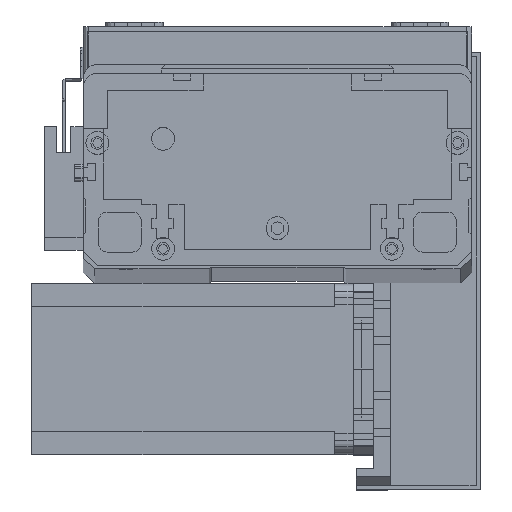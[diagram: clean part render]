
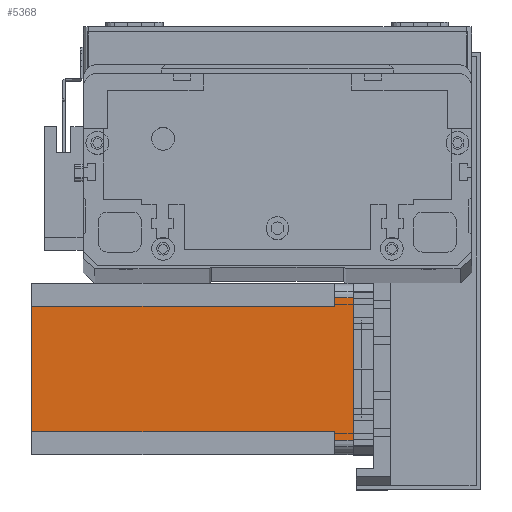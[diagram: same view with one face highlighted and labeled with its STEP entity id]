
A CAD part, top view. The second image highlights one B-rep face of the part: STEP entity #5368.
In plain terms, the highlighted planar face has unit normal (0, 0, 1) as drawn and (0, -1, 0) by its records, which use the part's own axes.
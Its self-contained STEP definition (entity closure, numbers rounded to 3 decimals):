
#98 = CARTESIAN_POINT ( 'NONE',  ( 52., 0., -112.5 ) ) ;
#587 = AXIS2_PLACEMENT_3D ( 'NONE', #23833, #9571, #26238 ) ;
#623 = EDGE_CURVE ( 'NONE', #3765, #3757, #5610, .T. ) ;
#945 = CARTESIAN_POINT ( 'NONE',  ( 8., 0., -6.5 ) ) ;
#1628 = VECTOR ( 'NONE', #22469, 1000. ) ;
#1962 = CARTESIAN_POINT ( 'NONE',  ( 55., 0., -112.5 ) ) ;
#2618 = DIRECTION ( 'NONE',  ( 0., 0., 1. ) ) ;
#2737 = DIRECTION ( 'NONE',  ( 0., 0., -1. ) ) ;
#2815 = LINE ( 'NONE', #21883, #27520 ) ;
#3527 = VERTEX_POINT ( 'NONE', #9609 ) ;
#3757 = VERTEX_POINT ( 'NONE', #13588 ) ;
#3765 = VERTEX_POINT ( 'NONE', #27870 ) ;
#3807 = ORIENTED_EDGE ( 'NONE', *, *, #16379, .T. ) ;
#3880 = EDGE_CURVE ( 'NONE', #3527, #9450, #8246, .T. ) ;
#5368 = ADVANCED_FACE ( 'NONE', ( #8936 ), #30973, .T. ) ;
#5610 = LINE ( 'NONE', #1962, #30341 ) ;
#5757 = DIRECTION ( 'NONE',  ( 1., 0., 0. ) ) ;
#6426 = ORIENTED_EDGE ( 'NONE', *, *, #10952, .F. ) ;
#6793 = DIRECTION ( 'NONE',  ( 0., 0., 1. ) ) ;
#7679 = VERTEX_POINT ( 'NONE', #30833 ) ;
#8009 = LINE ( 'NONE', #945, #1628 ) ;
#8246 = LINE ( 'NONE', #16995, #20977 ) ;
#8511 = ORIENTED_EDGE ( 'NONE', *, *, #19269, .T. ) ;
#8936 = FACE_OUTER_BOUND ( 'NONE', #25957, .T. ) ;
#9450 = VERTEX_POINT ( 'NONE', #17417 ) ;
#9491 = VECTOR ( 'NONE', #24729, 1000. ) ;
#9571 = DIRECTION ( 'NONE',  ( 0., -1., 0. ) ) ;
#9609 = CARTESIAN_POINT ( 'NONE',  ( 8., 0., -112.5 ) ) ;
#10250 = VECTOR ( 'NONE', #25065, 1000. ) ;
#10378 = VECTOR ( 'NONE', #5757, 1000. ) ;
#10457 = CARTESIAN_POINT ( 'NONE',  ( 0., 0., -112.5 ) ) ;
#10952 = EDGE_CURVE ( 'NONE', #27873, #28530, #2815, .T. ) ;
#11218 = CARTESIAN_POINT ( 'NONE',  ( 5., 0., -6.5 ) ) ;
#11267 = VERTEX_POINT ( 'NONE', #11218 ) ;
#12197 = CARTESIAN_POINT ( 'NONE',  ( 52., 0., -6.5 ) ) ;
#12461 = DIRECTION ( 'NONE',  ( 1., 0., 0. ) ) ;
#13215 = CARTESIAN_POINT ( 'NONE',  ( 5., 0., -112.5 ) ) ;
#13588 = CARTESIAN_POINT ( 'NONE',  ( 55., 0., 0. ) ) ;
#16379 = EDGE_CURVE ( 'NONE', #3527, #28530, #29428, .T. ) ;
#16995 = CARTESIAN_POINT ( 'NONE',  ( 8., 0., -112.5 ) ) ;
#17417 = CARTESIAN_POINT ( 'NONE',  ( 8., 0., -6.5 ) ) ;
#17769 = ORIENTED_EDGE ( 'NONE', *, *, #20560, .F. ) ;
#18045 = ORIENTED_EDGE ( 'NONE', *, *, #18710, .T. ) ;
#18710 = EDGE_CURVE ( 'NONE', #7679, #11267, #22195, .T. ) ;
#19269 = EDGE_CURVE ( 'NONE', #27873, #3765, #27791, .T. ) ;
#20560 = EDGE_CURVE ( 'NONE', #7679, #3757, #24533, .T. ) ;
#20977 = VECTOR ( 'NONE', #2618, 1000. ) ;
#21883 = CARTESIAN_POINT ( 'NONE',  ( 52., 0., -112.5 ) ) ;
#22195 = LINE ( 'NONE', #13215, #10250 ) ;
#22469 = DIRECTION ( 'NONE',  ( -1., 0., 0. ) ) ;
#23833 = CARTESIAN_POINT ( 'NONE',  ( 0., 0., -112.5 ) ) ;
#24533 = LINE ( 'NONE', #29139, #29373 ) ;
#24729 = DIRECTION ( 'NONE',  ( 1., 0., 0. ) ) ;
#25065 = DIRECTION ( 'NONE',  ( 0., 0., -1. ) ) ;
#25957 = EDGE_LOOP ( 'NONE', ( #8511, #28181, #17769, #18045, #27832, #29293, #3807, #6426 ) ) ;
#26238 = DIRECTION ( 'NONE',  ( 0., 0., -1. ) ) ;
#26339 = EDGE_CURVE ( 'NONE', #9450, #11267, #8009, .T. ) ;
#27520 = VECTOR ( 'NONE', #2737, 1000. ) ;
#27791 = LINE ( 'NONE', #29527, #9491 ) ;
#27832 = ORIENTED_EDGE ( 'NONE', *, *, #26339, .F. ) ;
#27870 = CARTESIAN_POINT ( 'NONE',  ( 55., 0., -6.5 ) ) ;
#27873 = VERTEX_POINT ( 'NONE', #12197 ) ;
#28181 = ORIENTED_EDGE ( 'NONE', *, *, #623, .T. ) ;
#28530 = VERTEX_POINT ( 'NONE', #98 ) ;
#29139 = CARTESIAN_POINT ( 'NONE',  ( 0., 0., 0. ) ) ;
#29293 = ORIENTED_EDGE ( 'NONE', *, *, #3880, .F. ) ;
#29373 = VECTOR ( 'NONE', #12461, 1000. ) ;
#29428 = LINE ( 'NONE', #10457, #10378 ) ;
#29527 = CARTESIAN_POINT ( 'NONE',  ( 52., 0., -6.5 ) ) ;
#30341 = VECTOR ( 'NONE', #6793, 1000. ) ;
#30833 = CARTESIAN_POINT ( 'NONE',  ( 5., 0., 0. ) ) ;
#30973 = PLANE ( 'NONE',  #587 ) ;
